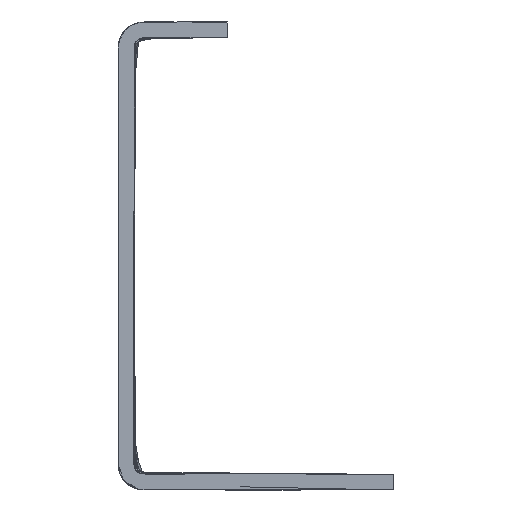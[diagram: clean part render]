
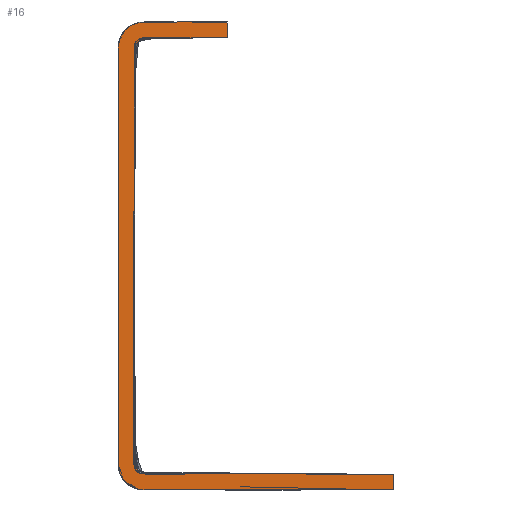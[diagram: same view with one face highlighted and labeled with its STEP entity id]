
A CAD part, front view. The second image highlights one B-rep face of the part: STEP entity #16.
In plain terms, the highlighted free-form (B-spline) face has degree [2, 1] with [11, 2] control points.
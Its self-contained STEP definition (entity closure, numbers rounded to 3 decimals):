
#16=ADVANCED_FACE('',(#40),#320,.T.);
#40=FACE_OUTER_BOUND('',#64,.T.);
#64=EDGE_LOOP('',(#112,#113,#114,#115));
#112=ORIENTED_EDGE('',*,*,#176,.F.);
#113=ORIENTED_EDGE('',*,*,#208,.T.);
#114=ORIENTED_EDGE('',*,*,#195,.F.);
#115=ORIENTED_EDGE('',*,*,#209,.T.);
#176=EDGE_CURVE('',#273,#272,#251,.T.);
#195=EDGE_CURVE('',#291,#288,#256,.T.);
#208=EDGE_CURVE('',#273,#288,#269,.T.);
#209=EDGE_CURVE('',#291,#272,#270,.T.);
#251=(
BOUNDED_CURVE()
B_SPLINE_CURVE(2,(#578,#579,#580,#581,#582,#583,#584,#585,#586,#587,#588),
 .UNSPECIFIED.,.F.,.F.)
B_SPLINE_CURVE_WITH_KNOTS((3,2,2,2,2,3),(0.5,24.5,27.642,67.642,
70.783,78.783),.UNSPECIFIED.)
CURVE()
GEOMETRIC_REPRESENTATION_ITEM()
RATIONAL_B_SPLINE_CURVE((1.,1.,1.,0.707,1.,1.,1.,0.707,
1.,1.,1.))
REPRESENTATION_ITEM('')
);
#256=(
BOUNDED_CURVE()
B_SPLINE_CURVE(2,(#673,#674,#675,#676,#677,#678,#679,#680,#681,#682,#683),
 .UNSPECIFIED.,.F.,.F.)
B_SPLINE_CURVE_WITH_KNOTS((3,2,2,2,2,3),(-78.783,-70.783,
-67.642,-27.642,-24.5,-0.5),.UNSPECIFIED.)
CURVE()
GEOMETRIC_REPRESENTATION_ITEM()
RATIONAL_B_SPLINE_CURVE((1.,1.,1.,0.707,1.,1.,1.,0.707,
1.,1.,1.))
REPRESENTATION_ITEM('')
);
#269=(
BOUNDED_CURVE()
B_SPLINE_CURVE(1,(#714,#715),.UNSPECIFIED.,.F.,.F.)
B_SPLINE_CURVE_WITH_KNOTS((2,2),(0.,1.),.UNSPECIFIED.)
CURVE()
GEOMETRIC_REPRESENTATION_ITEM()
RATIONAL_B_SPLINE_CURVE((1.,1.))
REPRESENTATION_ITEM('')
);
#270=(
BOUNDED_CURVE()
B_SPLINE_CURVE(1,(#716,#717),.UNSPECIFIED.,.F.,.F.)
B_SPLINE_CURVE_WITH_KNOTS((2,2),(-1.,0.),.UNSPECIFIED.)
CURVE()
GEOMETRIC_REPRESENTATION_ITEM()
RATIONAL_B_SPLINE_CURVE((1.,1.))
REPRESENTATION_ITEM('')
);
#272=VERTEX_POINT('',#546);
#273=VERTEX_POINT('',#547);
#288=VERTEX_POINT('',#562);
#291=VERTEX_POINT('',#565);
#320=(
BOUNDED_SURFACE()
B_SPLINE_SURFACE(2,1,((#488,#489),(#490,#491),(#492,#493),(#494,#495),(#496,
#497),(#498,#499),(#500,#501),(#502,#503),(#504,#505),(#506,#507),(#508,
#509)),.UNSPECIFIED.,.F.,.F.,.F.)
B_SPLINE_SURFACE_WITH_KNOTS((3,2,2,2,2,3),(2,2),(-78.783,-70.783,
-67.642,-27.642,-24.5,-0.5),(0.,1.),.UNSPECIFIED.)
GEOMETRIC_REPRESENTATION_ITEM()
RATIONAL_B_SPLINE_SURFACE(((1.,1.),(1.,1.),(1.,1.),(0.707,0.707),
(1.,1.),(1.,1.),(1.,1.),(0.707,0.707),(1.,1.),(1.,
1.),(1.,1.)))
REPRESENTATION_ITEM('')
SURFACE()
);
#488=CARTESIAN_POINT('',(-16.,0.,44.5));
#489=CARTESIAN_POINT('',(-16.,0.,43.));
#490=CARTESIAN_POINT('',(-20.,0.,44.5));
#491=CARTESIAN_POINT('',(-20.,0.,43.));
#492=CARTESIAN_POINT('',(-24.,0.,44.5));
#493=CARTESIAN_POINT('',(-24.,0.,43.));
#494=CARTESIAN_POINT('',(-26.5,0.,44.5));
#495=CARTESIAN_POINT('',(-25.,0.,43.));
#496=CARTESIAN_POINT('',(-26.5,0.,42.));
#497=CARTESIAN_POINT('',(-25.,0.,42.));
#498=CARTESIAN_POINT('',(-26.5,0.,22.));
#499=CARTESIAN_POINT('',(-25.,0.,22.));
#500=CARTESIAN_POINT('',(-26.5,0.,2.));
#501=CARTESIAN_POINT('',(-25.,0.,2.));
#502=CARTESIAN_POINT('',(-26.5,0.,-0.5));
#503=CARTESIAN_POINT('',(-25.,0.,1.));
#504=CARTESIAN_POINT('',(-24.,0.,-0.5));
#505=CARTESIAN_POINT('',(-24.,0.,1.));
#506=CARTESIAN_POINT('',(-12.,0.,-0.5));
#507=CARTESIAN_POINT('',(-12.,0.,1.));
#508=CARTESIAN_POINT('',(0.,0.,-0.5));
#509=CARTESIAN_POINT('',(0.,0.,1.));
#546=CARTESIAN_POINT('',(-16.,0.,44.5));
#547=CARTESIAN_POINT('',(0.,0.,-0.5));
#562=CARTESIAN_POINT('',(0.,0.,1.));
#565=CARTESIAN_POINT('',(-16.,0.,43.));
#578=CARTESIAN_POINT('',(0.,0.,-0.5));
#579=CARTESIAN_POINT('',(-12.,0.,-0.5));
#580=CARTESIAN_POINT('',(-24.,0.,-0.5));
#581=CARTESIAN_POINT('',(-26.5,0.,-0.5));
#582=CARTESIAN_POINT('',(-26.5,0.,2.));
#583=CARTESIAN_POINT('',(-26.5,0.,22.));
#584=CARTESIAN_POINT('',(-26.5,0.,42.));
#585=CARTESIAN_POINT('',(-26.5,0.,44.5));
#586=CARTESIAN_POINT('',(-24.,0.,44.5));
#587=CARTESIAN_POINT('',(-20.,0.,44.5));
#588=CARTESIAN_POINT('',(-16.,0.,44.5));
#673=CARTESIAN_POINT('',(-16.,0.,43.));
#674=CARTESIAN_POINT('',(-20.,0.,43.));
#675=CARTESIAN_POINT('',(-24.,0.,43.));
#676=CARTESIAN_POINT('',(-25.,0.,43.));
#677=CARTESIAN_POINT('',(-25.,0.,42.));
#678=CARTESIAN_POINT('',(-25.,0.,22.));
#679=CARTESIAN_POINT('',(-25.,0.,2.));
#680=CARTESIAN_POINT('',(-25.,0.,1.));
#681=CARTESIAN_POINT('',(-24.,0.,1.));
#682=CARTESIAN_POINT('',(-12.,0.,1.));
#683=CARTESIAN_POINT('',(0.,0.,1.));
#714=CARTESIAN_POINT('',(0.,0.,-0.5));
#715=CARTESIAN_POINT('',(0.,0.,1.));
#716=CARTESIAN_POINT('',(-16.,0.,43.));
#717=CARTESIAN_POINT('',(-16.,0.,44.5));
